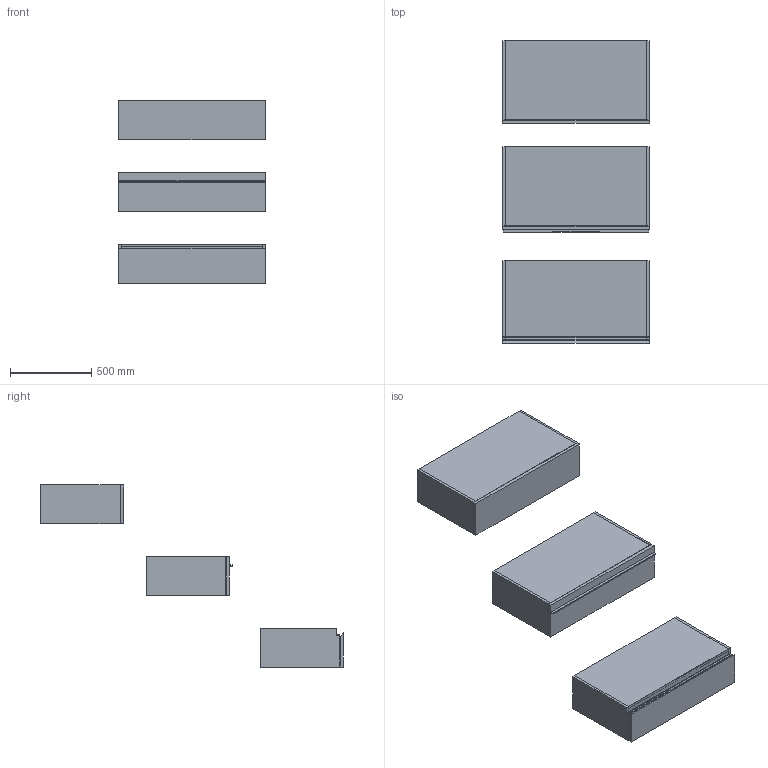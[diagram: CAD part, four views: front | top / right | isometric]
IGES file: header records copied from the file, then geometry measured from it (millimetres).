
Start section: Data from Parasolid IGES Translator 19.0.9, Copyright(c) 2006 Siemens PL M Software. All Rights Reserved.
Global section: file name: noorth-SI-H 24 D 51 W 90_8312.igs; native system: By Siemens PLM Incorporated; preprocessor: XPlus GENERIC/IGES 19.0.9; author: Noname; organization: Noname; date: 20200530.120951; units: metre
Bounding box: 900.01 x 1857.1 x 1120 mm (x, y, z)
Volume: 64813382.7 mm3; surface area: 9445572.6 mm2
Topology: 20 solids, 20 shells, 178 faces, 382 edges, 234 vertices
Faces by surface type: plane 134, extrusion 16, bspline 16, cylinder 12
